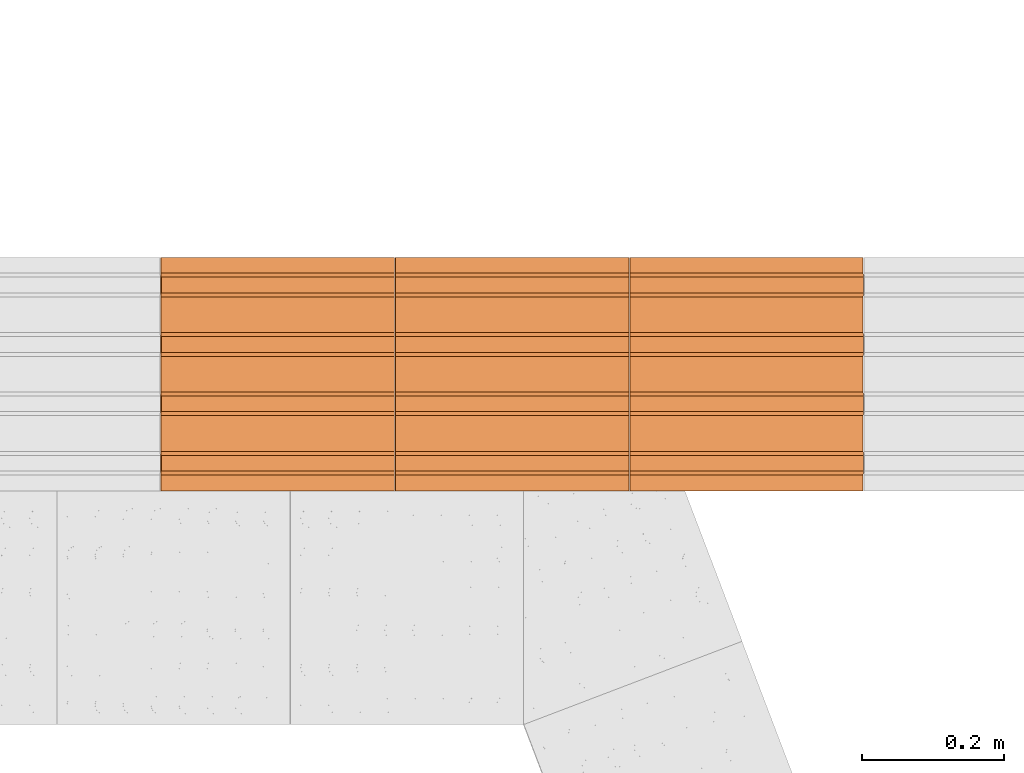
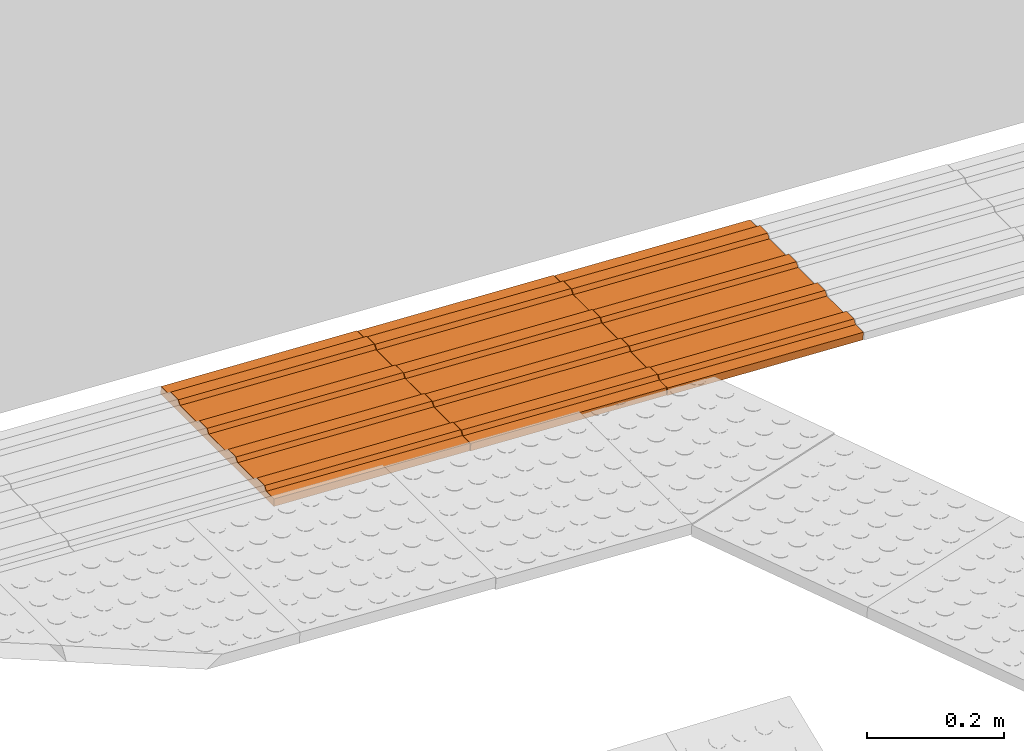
# One storey, part 161 of 237: 3 proxies.
"""IFC2X3 building model written with IfcOpenShell, lengths in millimetres."""

from ifc_helpers import new_model, entity, si_unit, converted_unit, derived_unit, money_unit, direction, frame, origin_with_axes, place, context, subcontext, project, spatial, open_shell, surface_model, source, transform, mapped, type_object, element, save


model = new_model("IFC2X3")

# Units and contexts
model_context = context("Model", 3, precision=0.01, world=origin_with_axes(), true_north=direction((0.0, 1.0)))
body_context = subcontext(model_context, "Body", "Model", "MODEL_VIEW")
ifc_project = project(units=[si_unit("LENGTHUNIT", "METRE", prefix="MILLI"), si_unit("AREAUNIT", "SQUARE_METRE"), si_unit("VOLUMEUNIT", "CUBIC_METRE"), converted_unit("PLANEANGLEUNIT", "DEGREE", entity("IfcPlaneAngleMeasure", 0.0174532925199), si_unit("PLANEANGLEUNIT", "RADIAN"), dimensions=[0, 0, 0, 0, 0, 0, 0]), money_unit("USD"), converted_unit("TIMEUNIT", "Year", entity("IfcTimeMeasure", 31556926.0), si_unit("TIMEUNIT", "SECOND"), dimensions=[0, 0, 1, 0, 0, 0, 0]), si_unit("MASSUNIT", "GRAM", prefix="KILO"), si_unit("THERMODYNAMICTEMPERATUREUNIT", "DEGREE_CELSIUS"), si_unit("LUMINOUSINTENSITYUNIT", "LUMEN"), si_unit("ENERGYUNIT", "JOULE", prefix="MEGA"), derived_unit("THERMALCONDUCTANCEUNIT", [(si_unit("POWERUNIT", "WATT"), 1), (si_unit("LENGTHUNIT", "METRE"), -1), (si_unit("THERMODYNAMICTEMPERATUREUNIT", "KELVIN"), -1)]), derived_unit("SPECIFICHEATCAPACITYUNIT", [(si_unit("ENERGYUNIT", "JOULE"), 1), (si_unit("MASSUNIT", "GRAM", prefix="KILO"), -1), (si_unit("THERMODYNAMICTEMPERATUREUNIT", "KELVIN"), -1)]), derived_unit("MASSDENSITYUNIT", [(si_unit("MASSUNIT", "GRAM", prefix="KILO"), 1), (si_unit("VOLUMEUNIT", "CUBIC_METRE"), -1)])], contexts=[model_context])

# Site, building, storey
site_placement = place(None, origin_with_axes())
site = spatial("IfcSite", under=ifc_project, at=site_placement, Name="Local", CompositionType="ELEMENT")
building_placement = place(site_placement, origin_with_axes())
building = spatial("IfcBuilding", under=site, at=building_placement, Name="Construção", CompositionType="ELEMENT")
storey_placement = place(building_placement, origin_with_axes())
storey = spatial("IfcBuildingStorey", under=building, at=storey_placement, Name="Pavimento Térreo", CompositionType="ELEMENT", Elevation=0.0)

# Proxies
building_element_proxy_type = type_object("IfcBuildingElementProxyType", Name="Piso Direcional 27", PredefinedType="NOTDEFINED")
shared_shape = source(origin_with_axes(), body_context, "Body", "SurfaceModel", [
    surface_model("IfcShellBasedSurfaceModel", [(-0.196792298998, -47.258225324, 4.02371099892), (329.409233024, -47.258225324, 20.1441350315), (329.083567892, -41.665004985, 26.8028426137), (-0.522457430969, -41.665004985, 10.6824185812)], [open_shell([[[0, 1, 2, 3]]])]),
    surface_model("IfcShellBasedSurfaceModel", [(330.060563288, -153.529411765, 6.82671986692), (330.060563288, 176.470588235, 6.82671986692), (329.409233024, 176.470588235, 20.1441350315), (329.409233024, 154.097706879, 20.1441350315), (329.083567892, 148.50448654, 26.8028426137), (329.083567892, 126.131605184, 26.8028426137), (329.409233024, 120.538384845, 20.1441350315), (329.409233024, 70.1994017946, 20.1441350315), (329.083567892, 64.6061814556, 26.8028426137), (329.083567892, 42.2333000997, 26.8028426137), (329.409233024, 36.6400797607, 20.1441350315), (329.409233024, -13.6989032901, 20.1441350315), (329.083567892, -19.2921236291, 26.8028426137), (329.083567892, -41.665004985, 26.8028426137), (329.409233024, -47.258225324, 20.1441350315), (329.409233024, -97.5972083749, 20.1441350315), (329.083567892, -103.190428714, 26.8028426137), (329.083567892, -125.56331007, 26.8028426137), (329.409233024, -131.156530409, 20.1441350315), (329.409233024, -153.529411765, 20.1441350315)], [open_shell([[[0, 1, 2, 3, 4, 5, 6, 7, 8, 9, 10, 11, 12, 13, 14, 15, 16, 17, 18, 19]]])]),
    surface_model("IfcShellBasedSurfaceModel", [(-0.522457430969, -19.2921236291, 10.6824185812), (329.083567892, -19.2921236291, 26.8028426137), (329.409233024, -13.6989032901, 20.1441350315), (-0.196792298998, -13.6989032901, 4.02371099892)], [open_shell([[[0, 1, 2, 3]]])]),
    surface_model("IfcShellBasedSurfaceModel", [(-0.522457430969, -103.190428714, 10.6824185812), (329.083567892, -103.190428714, 26.8028426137), (329.409233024, -97.5972083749, 20.1441350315), (-0.196792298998, -97.5972083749, 4.02371099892)], [open_shell([[[0, 1, 2, 3]]])]),
    surface_model("IfcShellBasedSurfaceModel", [(-0.522457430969, 64.6061814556, 10.6824185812), (329.083567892, 64.6061814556, 26.8028426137), (329.409233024, 70.1994017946, 20.1441350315), (-0.196792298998, 70.1994017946, 4.02371099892)], [open_shell([[[0, 1, 2, 3]]])]),
    surface_model("IfcShellBasedSurfaceModel", [(-0.196792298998, 36.6400797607, 4.02371099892), (329.409233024, 36.6400797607, 20.1441350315), (329.083567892, 42.2333000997, 26.8028426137), (-0.522457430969, 42.2333000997, 10.6824185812)], [open_shell([[[0, 1, 2, 3]]])]),
    surface_model("IfcShellBasedSurfaceModel", [(-0.196792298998, -131.156530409, 4.02371099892), (329.409233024, -131.156530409, 20.1441350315), (329.083567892, -125.56331007, 26.8028426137), (-0.522457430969, -125.56331007, 10.6824185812)], [open_shell([[[0, 1, 2, 3]]])]),
    surface_model("IfcShellBasedSurfaceModel", [(-0.196792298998, 176.470588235, 4.02371099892), (-0.196792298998, 154.097706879, 4.02371099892), (329.409233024, 154.097706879, 20.1441350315), (329.409233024, 176.470588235, 20.1441350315)], [open_shell([[[0, 1, 2, 3]]])]),
    surface_model("IfcShellBasedSurfaceModel", [(-0.196792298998, 120.538384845, 4.02371099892), (329.409233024, 120.538384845, 20.1441350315), (329.083567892, 126.131605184, 26.8028426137), (-0.522457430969, 126.131605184, 10.6824185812)], [open_shell([[[0, 1, 2, 3]]])]),
    surface_model("IfcShellBasedSurfaceModel", [(-0.522457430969, 148.50448654, 10.6824185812), (329.083567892, 148.50448654, 26.8028426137), (329.409233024, 154.097706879, 20.1441350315), (-0.196792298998, 154.097706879, 4.02371099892)], [open_shell([[[0, 1, 2, 3]]])]),
    surface_model("IfcShellBasedSurfaceModel", [(-0.196792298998, 36.6400797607, 4.02371099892), (-0.196792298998, -13.6989032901, 4.02371099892), (329.409233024, -13.6989032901, 20.1441350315), (329.409233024, 36.6400797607, 20.1441350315)], [open_shell([[[0, 1, 2, 3]]])]),
    surface_model("IfcShellBasedSurfaceModel", [(-0.196792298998, 120.538384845, 4.02371099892), (-0.196792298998, 70.1994017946, 4.02371099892), (329.409233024, 70.1994017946, 20.1441350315), (329.409233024, 120.538384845, 20.1441350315)], [open_shell([[[0, 1, 2, 3]]])]),
    surface_model("IfcShellBasedSurfaceModel", [(-0.522457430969, 148.50448654, 10.6824185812), (-0.522457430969, 126.131605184, 10.6824185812), (329.083567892, 126.131605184, 26.8028426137), (329.083567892, 148.50448654, 26.8028426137)], [open_shell([[[0, 1, 2, 3]]])]),
    surface_model("IfcShellBasedSurfaceModel", [(-0.196792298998, 120.538384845, 4.02371099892), (-0.522457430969, 126.131605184, 10.6824185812), (-0.522457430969, 148.50448654, 10.6824185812), (-0.196792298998, 154.097706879, 4.02371099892), (-0.196792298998, 176.470588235, 4.02371099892), (0.454537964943, 176.470588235, -9.29370416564), (0.454537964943, -153.529411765, -9.29370416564), (-0.196792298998, -153.529411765, 4.02371099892), (-0.196792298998, -131.156530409, 4.02371099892), (-0.522457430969, -125.56331007, 10.6824185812), (-0.522457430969, -103.190428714, 10.6824185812), (-0.196792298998, -97.5972083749, 4.02371099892), (-0.196792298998, -47.258225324, 4.02371099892), (-0.522457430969, -41.665004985, 10.6824185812), (-0.522457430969, -19.2921236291, 10.6824185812), (-0.196792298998, -13.6989032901, 4.02371099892), (-0.196792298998, 36.6400797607, 4.02371099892), (-0.522457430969, 42.2333000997, 10.6824185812), (-0.522457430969, 64.6061814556, 10.6824185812), (-0.196792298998, 70.1994017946, 4.02371099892)], [open_shell([[[0, 1, 2, 3, 4, 5, 6, 7, 8, 9, 10, 11, 12, 13, 14, 15, 16, 17, 18, 19]]])]),
    surface_model("IfcShellBasedSurfaceModel", [(329.083567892, -41.665004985, 26.8028426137), (329.083567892, -19.2921236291, 26.8028426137), (-0.522457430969, -19.2921236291, 10.6824185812), (-0.522457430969, -41.665004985, 10.6824185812)], [open_shell([[[0, 1, 2, 3]]])]),
    surface_model("IfcShellBasedSurfaceModel", [(-0.196792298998, -47.258225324, 4.02371099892), (-0.196792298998, -97.5972083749, 4.02371099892), (329.409233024, -97.5972083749, 20.1441350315), (329.409233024, -47.258225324, 20.1441350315)], [open_shell([[[0, 1, 2, 3]]])]),
    surface_model("IfcShellBasedSurfaceModel", [(329.083567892, 42.2333000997, 26.8028426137), (329.083567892, 64.6061814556, 26.8028426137), (-0.522457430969, 64.6061814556, 10.6824185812), (-0.522457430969, 42.2333000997, 10.6824185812)], [open_shell([[[0, 1, 2, 3]]])]),
    surface_model("IfcShellBasedSurfaceModel", [(329.083567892, -125.56331007, 26.8028426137), (329.083567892, -103.190428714, 26.8028426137), (-0.522457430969, -103.190428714, 10.6824185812), (-0.522457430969, -125.56331007, 10.6824185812)], [open_shell([[[0, 1, 2, 3]]])]),
    surface_model("IfcShellBasedSurfaceModel", [(330.060563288, 176.470588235, 6.82671986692), (0.454537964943, 176.470588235, -9.29370416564), (-0.196792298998, 176.470588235, 4.02371099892), (329.409233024, 176.470588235, 20.1441350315)], [open_shell([[[0, 1, 2, 3]]])]),
    surface_model("IfcShellBasedSurfaceModel", [(330.060563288, -153.529411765, 6.82671986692), (0.454537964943, -153.529411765, -9.29370416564), (0.454537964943, 176.470588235, -9.29370416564), (330.060563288, 176.470588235, 6.82671986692)], [open_shell([[[0, 1, 2, 3]]])]),
    surface_model("IfcShellBasedSurfaceModel", [(329.409233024, -153.529411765, 20.1441350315), (329.409233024, -131.156530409, 20.1441350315), (-0.196792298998, -131.156530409, 4.02371099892), (-0.196792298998, -153.529411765, 4.02371099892)], [open_shell([[[0, 1, 2, 3]]])]),
    surface_model("IfcShellBasedSurfaceModel", [(0.454537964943, -153.529411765, -9.29370416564), (330.060563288, -153.529411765, 6.82671986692), (329.409233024, -153.529411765, 20.1441350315), (-0.196792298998, -153.529411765, 4.02371099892)], [open_shell([[[0, 1, 2, 3]]])]),
])
for number, where, z_axis, x_axis, name in (
    (1, (32728.3201506, 10834.0941893, -2662.14330353), (0.0, 0.0, 1.0), (-1.0, 0.0, 0.0), "Objeto-0055"),
    (2, (33059.2452973, 10834.0941893, -2679.37724333), (0.0, 0.0, 1.0), (-1.0, 0.0, 0.0), "Objeto-0055"),
    (3, (32397.395004, 10834.0941893, -2644.90936372), (0.0, 0.0, 1.0), (-1.0, 0.0, 0.0), "Objeto-0055"),
):
    element("IfcBuildingElementProxy", number, at=place(storey_placement, frame(where, z_axis=z_axis, x_axis=x_axis)), inside=storey, type_object=building_element_proxy_type, Name=name, context=body_context, shape_type="MappedRepresentation", body=[
        mapped(shared_shape, transform((0.0, 0.0, 0.0))),
    ])

save(model, "model.ifc")
